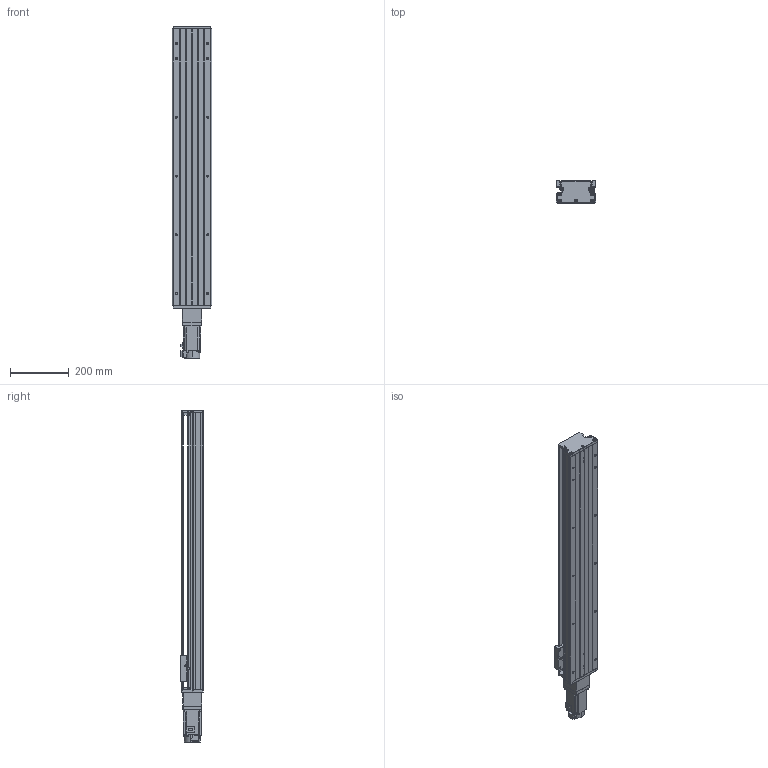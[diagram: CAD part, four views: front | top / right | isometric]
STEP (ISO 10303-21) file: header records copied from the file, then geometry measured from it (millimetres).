
FILE_DESCRIPTION (( 'STEP AP203' ), '1' );
FILE_NAME ('KTH130-800-BC-M40-C4.step', '2023-06-30T03:55:33', ( '微软用户' ), ( '微软中国' ), 'SwSTEP 2.0', 'SolidWorks 2020', '' );
FILE_SCHEMA (( 'CONFIG_CONTROL_DESIGN' ));
Length unit declared in the file: millimetre
Products named in the file (19): KTH130-004; CTHA86-006-1_M40; CTHA60-016; KTH130-005; CTHA86-013; GBT 70.1-M3℅5; GB1155-6X6; CTHA86-027-1; GBT77-2000 M3×3; GBT70.1 M5℅16; HG-KN43J-S100; す晦芛蹟隊 M3℅5; GBT 70.2-M3¡Á5_M3¡Á6; KTH130-800-BC-M40-C4; GTH14-001_800; CTHA60-017; KTH130-002_KTH130-002; GBT 70.3-M3℅8; EE_SX911P_R
Assembly tree (52 placements, depth 2):
  KTH130-800-BC-M40-C4
    GTH14-001_800
    KTH130-002_KTH130-002
    KTH130-004
    KTH130-005
    GB1155-6X6  x2
    GBT70.1 M5℅16  x10
    GBT 70.2-M3¡Á5_M3¡Á6  x4
    CTHA60-017  x3
    EE_SX911P_R  x3
    CTHA60-016  x2
    GBT 70.1-M3℅5  x6
    GBT77-2000 M3×3  x6
    す晦芛蹟隊 M3℅5  x2
    GBT 70.3-M3℅8  x6
    CTHA86-006-1_M40
    CTHA86-013
    CTHA86-027-1
    HG-KN43J-S100
Bounding box: 135 x 78 x 1128.7 mm (x, y, z)
Volume: 5744438.6 mm3; surface area: 874456.6 mm2
Topology: 55 solids, 55 shells, 2192 faces, 5302 edges, 3310 vertices
Faces by surface type: plane 1196, cylinder 608, cone 280, torus 96, sphere 12
Entity records: 40190 total; most frequent: CARTESIAN_POINT 8526, DIRECTION 5985, ORIENTED_EDGE 5888, EDGE_CURVE 2944, AXIS2_PLACEMENT_3D 2043, LINE 1899, VECTOR 1899, VERTEX_POINT 1882
